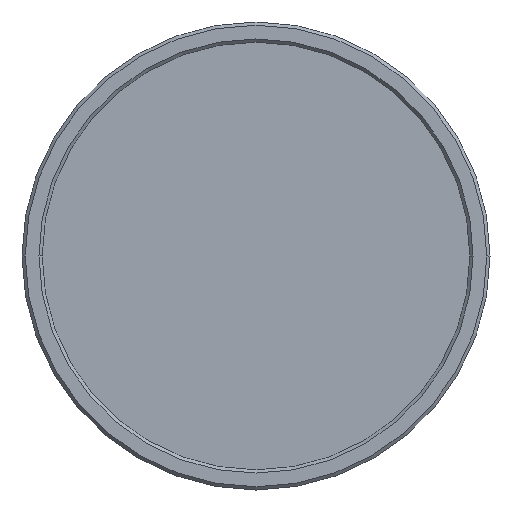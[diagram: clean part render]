
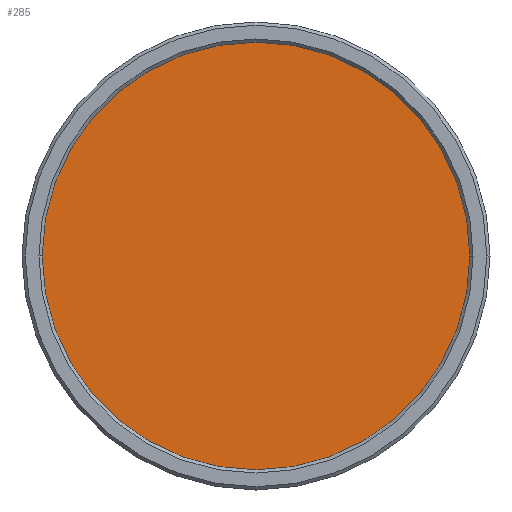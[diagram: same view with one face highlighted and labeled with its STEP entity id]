
A CAD part, left-side view. The second image highlights one B-rep face of the part: STEP entity #285.
In plain terms, the highlighted planar face has unit normal (-1, 0, 0).
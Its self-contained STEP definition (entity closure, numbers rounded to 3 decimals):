
#73 = ORIENTED_EDGE ( 'NONE', *, *, #442, .T. ) ;
#115 = VERTEX_POINT ( 'NONE', #141 ) ;
#116 = ORIENTED_EDGE ( 'NONE', *, *, #278, .T. ) ;
#131 = PLANE ( 'NONE',  #671 ) ;
#139 = CARTESIAN_POINT ( 'NONE',  ( 1.8, 0., 0. ) ) ;
#141 = CARTESIAN_POINT ( 'NONE',  ( 1.8, -13.5, 0. ) ) ;
#156 = EDGE_LOOP ( 'NONE', ( #116, #73 ) ) ;
#175 = CIRCLE ( 'NONE', #224, 13.5 ) ;
#195 = DIRECTION ( 'NONE',  ( 0., -1., 0. ) ) ;
#224 = AXIS2_PLACEMENT_3D ( 'NONE', #353, #406, #678 ) ;
#251 = DIRECTION ( 'NONE',  ( 0., 1., 0. ) ) ;
#278 = EDGE_CURVE ( 'NONE', #115, #509, #660, .T. ) ;
#285 = ADVANCED_FACE ( 'NONE', ( #390 ), #131, .F. ) ;
#353 = CARTESIAN_POINT ( 'NONE',  ( 1.8, 0., 0. ) ) ;
#390 = FACE_OUTER_BOUND ( 'NONE', #156, .T. ) ;
#406 = DIRECTION ( 'NONE',  ( -1., 0., 0. ) ) ;
#442 = EDGE_CURVE ( 'NONE', #509, #115, #175, .T. ) ;
#509 = VERTEX_POINT ( 'NONE', #656 ) ;
#524 = DIRECTION ( 'NONE',  ( -1., 0., 0. ) ) ;
#560 = AXIS2_PLACEMENT_3D ( 'NONE', #139, #524, #195 ) ;
#580 = DIRECTION ( 'NONE',  ( 1., 0., 0. ) ) ;
#593 = CARTESIAN_POINT ( 'NONE',  ( 1.8, 13.5, 0. ) ) ;
#656 = CARTESIAN_POINT ( 'NONE',  ( 1.8, 13.5, 0. ) ) ;
#660 = CIRCLE ( 'NONE', #560, 13.5 ) ;
#671 = AXIS2_PLACEMENT_3D ( 'NONE', #593, #580, #251 ) ;
#678 = DIRECTION ( 'NONE',  ( 0., -1., 0. ) ) ;
